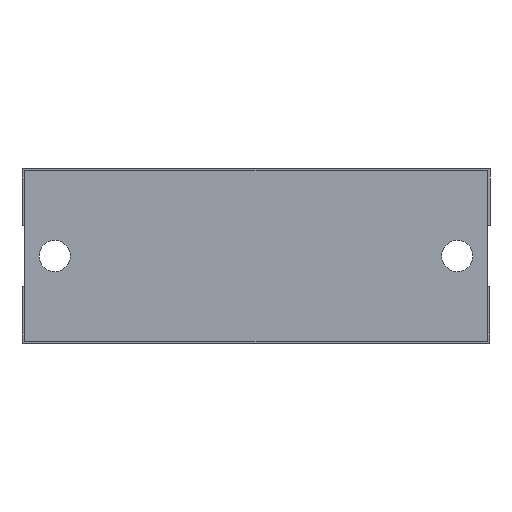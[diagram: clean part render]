
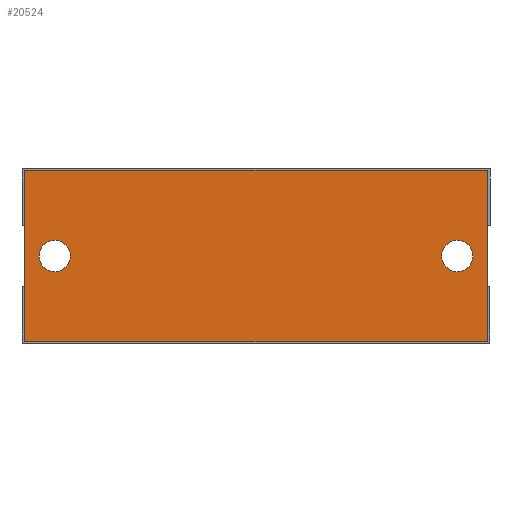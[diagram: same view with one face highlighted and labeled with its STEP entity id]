
A CAD part, front view. The second image highlights one B-rep face of the part: STEP entity #20524.
In plain terms, the highlighted planar face has unit normal (0, -1, 0).
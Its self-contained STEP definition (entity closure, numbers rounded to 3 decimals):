
#94 = CARTESIAN_POINT ( 'NONE',  ( 46., -4., -17. ) ) ;
#355 = CARTESIAN_POINT ( 'NONE',  ( -40., -4., 0. ) ) ;
#781 = LINE ( 'NONE', #10302, #25064 ) ;
#968 = CIRCLE ( 'NONE', #29974, 3.1 ) ;
#1139 = DIRECTION ( 'NONE',  ( 1., 0., 0. ) ) ;
#2344 = DIRECTION ( 'NONE',  ( -1., 0., 0. ) ) ;
#2475 = CARTESIAN_POINT ( 'NONE',  ( -46., -4., 17. ) ) ;
#2606 = DIRECTION ( 'NONE',  ( 0., 1., 0. ) ) ;
#2826 = ORIENTED_EDGE ( 'NONE', *, *, #9202, .T. ) ;
#3626 = CARTESIAN_POINT ( 'NONE',  ( -40., -4., 3.1 ) ) ;
#3781 = AXIS2_PLACEMENT_3D ( 'NONE', #26039, #28682, #28794 ) ;
#3972 = CARTESIAN_POINT ( 'NONE',  ( 0., -4., 0. ) ) ;
#4374 = EDGE_LOOP ( 'NONE', ( #2826, #11341 ) ) ;
#5457 = DIRECTION ( 'NONE',  ( 0., 0., -1. ) ) ;
#5908 = EDGE_CURVE ( 'NONE', #19551, #17229, #28190, .T. ) ;
#6712 = CARTESIAN_POINT ( 'NONE',  ( 46., -4., 17. ) ) ;
#8742 = VECTOR ( 'NONE', #2344, 1000. ) ;
#8900 = VERTEX_POINT ( 'NONE', #14301 ) ;
#9202 = EDGE_CURVE ( 'NONE', #9997, #8900, #24892, .T. ) ;
#9649 = EDGE_CURVE ( 'NONE', #29998, #27271, #17850, .T. ) ;
#9997 = VERTEX_POINT ( 'NONE', #26822 ) ;
#10302 = CARTESIAN_POINT ( 'NONE',  ( 46., -4., 17. ) ) ;
#11013 = DIRECTION ( 'NONE',  ( 0., 1., 0. ) ) ;
#11293 = ORIENTED_EDGE ( 'NONE', *, *, #22205, .T. ) ;
#11341 = ORIENTED_EDGE ( 'NONE', *, *, #29108, .T. ) ;
#11413 = AXIS2_PLACEMENT_3D ( 'NONE', #14569, #2606, #21628 ) ;
#12011 = ORIENTED_EDGE ( 'NONE', *, *, #24926, .F. ) ;
#14301 = CARTESIAN_POINT ( 'NONE',  ( 40., -4., 3.1 ) ) ;
#14569 = CARTESIAN_POINT ( 'NONE',  ( 40., -4., 0. ) ) ;
#15124 = FACE_BOUND ( 'NONE', #4374, .T. ) ;
#15151 = CIRCLE ( 'NONE', #21477, 3.1 ) ;
#15234 = AXIS2_PLACEMENT_3D ( 'NONE', #3972, #22730, #17972 ) ;
#15252 = CARTESIAN_POINT ( 'NONE',  ( -46., -4., -17. ) ) ;
#15982 = DIRECTION ( 'NONE',  ( 0., 0., -1. ) ) ;
#17229 = VERTEX_POINT ( 'NONE', #26097 ) ;
#17850 = LINE ( 'NONE', #6712, #24868 ) ;
#17972 = DIRECTION ( 'NONE',  ( 0., 0., 1. ) ) ;
#18074 = DIRECTION ( 'NONE',  ( 0., 0., -1. ) ) ;
#19258 = DIRECTION ( 'NONE',  ( 0., 1., 0. ) ) ;
#19551 = VERTEX_POINT ( 'NONE', #15252 ) ;
#20116 = EDGE_LOOP ( 'NONE', ( #28325, #11293 ) ) ;
#20202 = VERTEX_POINT ( 'NONE', #28540 ) ;
#20524 = ADVANCED_FACE ( 'NONE', ( #22930, #15124, #27714 ), #25306, .F. ) ;
#21477 = AXIS2_PLACEMENT_3D ( 'NONE', #355, #19258, #5457 ) ;
#21628 = DIRECTION ( 'NONE',  ( 0., 0., 1. ) ) ;
#22081 = LINE ( 'NONE', #94, #8742 ) ;
#22205 = EDGE_CURVE ( 'NONE', #26480, #20202, #15151, .T. ) ;
#22730 = DIRECTION ( 'NONE',  ( 0., 1., 0. ) ) ;
#22930 = FACE_OUTER_BOUND ( 'NONE', #24779, .T. ) ;
#23075 = EDGE_CURVE ( 'NONE', #20202, #26480, #968, .T. ) ;
#23117 = CARTESIAN_POINT ( 'NONE',  ( -40., -4., 0. ) ) ;
#23130 = ORIENTED_EDGE ( 'NONE', *, *, #24615, .F. ) ;
#24180 = ORIENTED_EDGE ( 'NONE', *, *, #9649, .F. ) ;
#24615 = EDGE_CURVE ( 'NONE', #17229, #29998, #781, .T. ) ;
#24779 = EDGE_LOOP ( 'NONE', ( #26790, #12011, #24180, #23130 ) ) ;
#24868 = VECTOR ( 'NONE', #18074, 1000. ) ;
#24892 = CIRCLE ( 'NONE', #3781, 3.1 ) ;
#24926 = EDGE_CURVE ( 'NONE', #27271, #19551, #22081, .T. ) ;
#25064 = VECTOR ( 'NONE', #1139, 1000. ) ;
#25200 = CARTESIAN_POINT ( 'NONE',  ( 46., -4., 17. ) ) ;
#25306 = PLANE ( 'NONE',  #15234 ) ;
#25728 = DIRECTION ( 'NONE',  ( 0., 0., 1. ) ) ;
#26039 = CARTESIAN_POINT ( 'NONE',  ( 40., -4., 0. ) ) ;
#26097 = CARTESIAN_POINT ( 'NONE',  ( -46., -4., 17. ) ) ;
#26480 = VERTEX_POINT ( 'NONE', #3626 ) ;
#26790 = ORIENTED_EDGE ( 'NONE', *, *, #5908, .F. ) ;
#26822 = CARTESIAN_POINT ( 'NONE',  ( 40., -4., -3.1 ) ) ;
#27271 = VERTEX_POINT ( 'NONE', #28381 ) ;
#27714 = FACE_BOUND ( 'NONE', #20116, .T. ) ;
#28190 = LINE ( 'NONE', #2475, #29644 ) ;
#28325 = ORIENTED_EDGE ( 'NONE', *, *, #23075, .T. ) ;
#28381 = CARTESIAN_POINT ( 'NONE',  ( 46., -4., -17. ) ) ;
#28540 = CARTESIAN_POINT ( 'NONE',  ( -40., -4., -3.1 ) ) ;
#28682 = DIRECTION ( 'NONE',  ( 0., 1., 0. ) ) ;
#28794 = DIRECTION ( 'NONE',  ( 0., 0., 1. ) ) ;
#29108 = EDGE_CURVE ( 'NONE', #8900, #9997, #30072, .T. ) ;
#29644 = VECTOR ( 'NONE', #25728, 1000. ) ;
#29974 = AXIS2_PLACEMENT_3D ( 'NONE', #23117, #11013, #15982 ) ;
#29998 = VERTEX_POINT ( 'NONE', #25200 ) ;
#30072 = CIRCLE ( 'NONE', #11413, 3.1 ) ;
